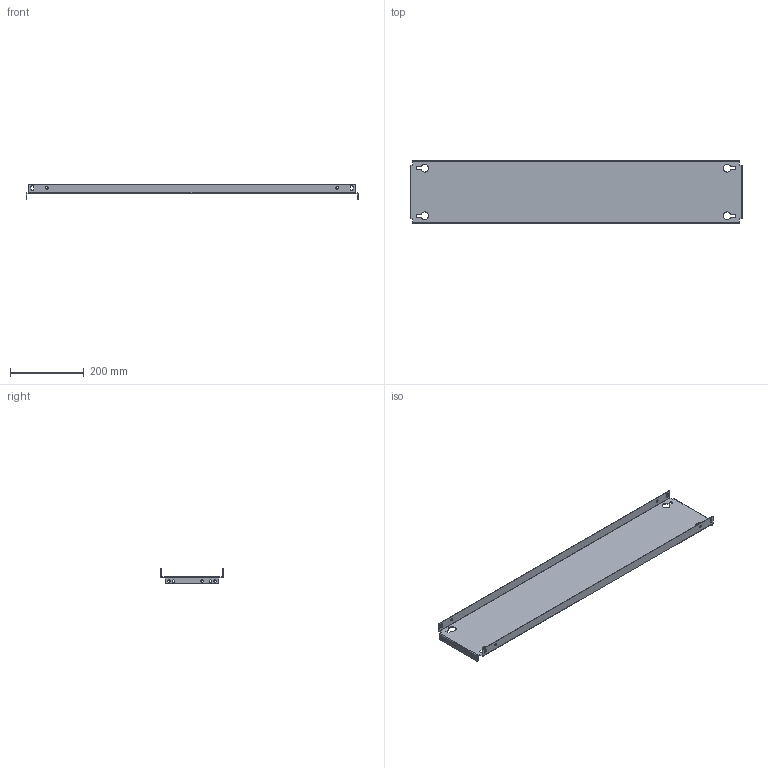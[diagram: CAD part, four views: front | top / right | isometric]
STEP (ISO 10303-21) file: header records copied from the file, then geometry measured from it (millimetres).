
FILE_DESCRIPTION (( 'STEP AP203' ), '1' );
FILE_NAME ('R5PPS2010.STEP', '2021-12-20T07:03:20', ( '' ), ( '' ), 'SwSTEP 2.0', 'SolidWorks 2020', '' );
FILE_SCHEMA (( 'CONFIG_CONTROL_DESIGN' ));
Length unit declared in the file: millimetre
Products named in the file (1): R5PPS2010
Bounding box: 900 x 169 x 43 mm (x, y, z)
Volume: 389960.5 mm3; surface area: 396151.4 mm2
Topology: 1 solids, 1 shells, 136 faces, 370 edges, 236 vertices
Faces by surface type: cylinder 78, plane 58
Entity records: 4479 total; most frequent: DIRECTION 800, CARTESIAN_POINT 743, ORIENTED_EDGE 740, EDGE_CURVE 370, AXIS2_PLACEMENT_3D 293, VERTEX_POINT 236, LINE 214, VECTOR 214
